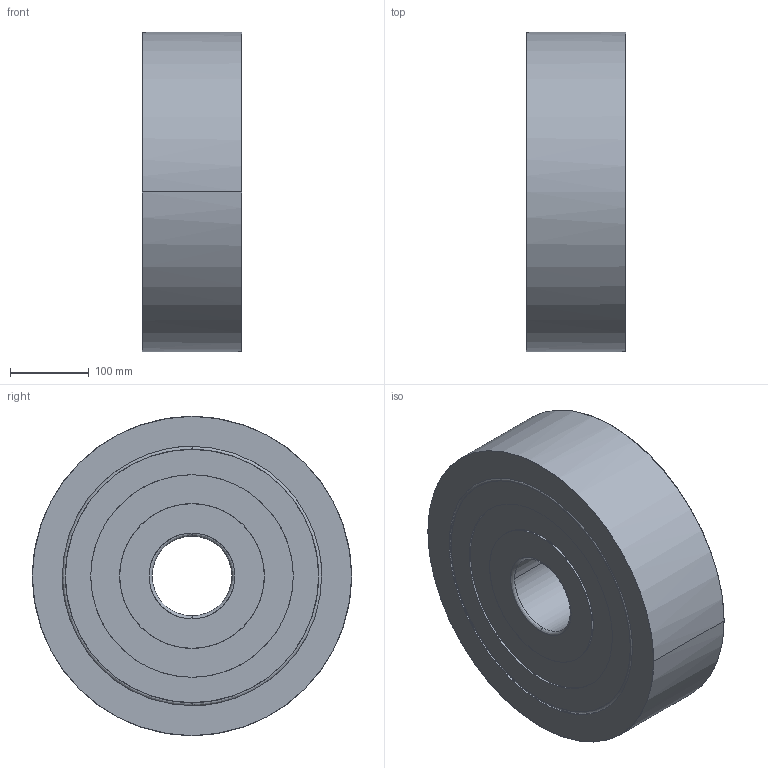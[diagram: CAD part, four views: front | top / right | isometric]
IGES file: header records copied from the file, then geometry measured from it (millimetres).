
Global section: native system: Kubotek KeyCreator; preprocessor: KCM Version 1.1.1442.0; author: KeyCreator User; organization: Self; date: 20170714.085448; units: inch
Bounding box: 127 x 406.4 x 406.4 mm (x, y, z)
Surface area: 464443 mm2 (no closed solid volume)
Topology: 0 solids, 0 shells, 32 faces, 208 edges, 208 vertices
Faces by surface type: bspline 32
